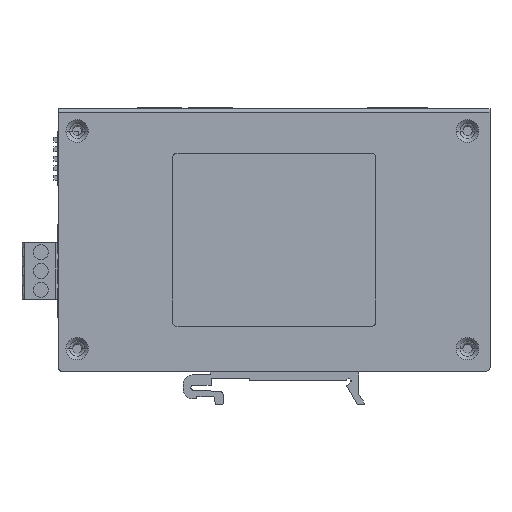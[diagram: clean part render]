
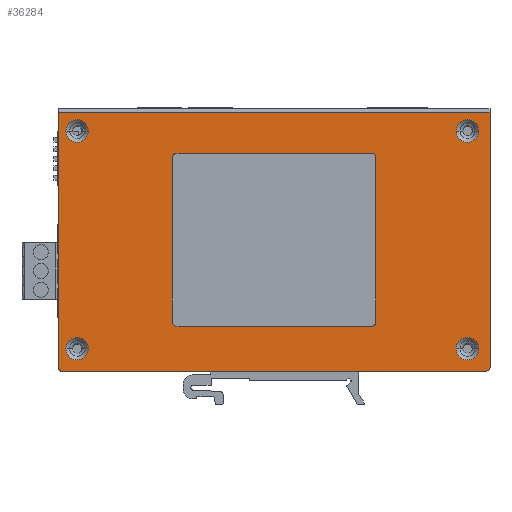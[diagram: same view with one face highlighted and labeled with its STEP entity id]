
A CAD part, left-side view. The second image highlights one B-rep face of the part: STEP entity #36284.
In plain terms, the highlighted planar face has unit normal (-1, 0, 0).
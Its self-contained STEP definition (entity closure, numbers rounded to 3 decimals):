
#34613=DIRECTION('',(0.,-1.,0.));
#34614=VECTOR('',#34613,113.);
#34615=CARTESIAN_POINT('',(-29.15,56.,-34.9));
#34616=LINE('',#34615,#34614);
#34617=CARTESIAN_POINT('',(-29.15,56.,-33.9));
#34618=DIRECTION('',(-1.,0.,0.));
#34619=DIRECTION('',(0.,1.,0.));
#34620=AXIS2_PLACEMENT_3D('',#34617,#34618,#34619);
#34622=DIRECTION('',(0.,0.,-1.));
#34623=VECTOR('',#34622,68.);
#34624=CARTESIAN_POINT('',(-29.15,57.,34.1));
#34625=LINE('',#34624,#34623);
#34626=DIRECTION('',(0.,0.,1.));
#34627=VECTOR('',#34626,68.);
#34628=CARTESIAN_POINT('',(-29.15,-58.,-33.9));
#34629=LINE('',#34628,#34627);
#34630=CARTESIAN_POINT('',(-29.15,-57.,-33.9));
#34631=DIRECTION('',(-1.,0.,0.));
#34632=DIRECTION('',(0.,0.,-1.));
#34633=AXIS2_PLACEMENT_3D('',#34630,#34631,#34632);
#34635=CARTESIAN_POINT('',(-29.15,52.,-28.9));
#34636=DIRECTION('',(1.,0.,0.));
#34637=DIRECTION('',(0.,1.,0.));
#34638=AXIS2_PLACEMENT_3D('',#34635,#34636,#34637);
#34640=CARTESIAN_POINT('',(-29.15,52.,-28.9));
#34641=DIRECTION('',(1.,0.,0.));
#34642=DIRECTION('',(0.,-1.,0.));
#34643=AXIS2_PLACEMENT_3D('',#34640,#34641,#34642);
#34645=CARTESIAN_POINT('',(-29.15,52.,29.1));
#34646=DIRECTION('',(1.,0.,0.));
#34647=DIRECTION('',(0.,1.,0.));
#34648=AXIS2_PLACEMENT_3D('',#34645,#34646,#34647);
#34650=CARTESIAN_POINT('',(-29.15,52.,29.1));
#34651=DIRECTION('',(1.,0.,0.));
#34652=DIRECTION('',(0.,-1.,0.));
#34653=AXIS2_PLACEMENT_3D('',#34650,#34651,#34652);
#34655=CARTESIAN_POINT('',(-29.15,-52.,29.1));
#34656=DIRECTION('',(1.,0.,0.));
#34657=DIRECTION('',(0.,1.,0.));
#34658=AXIS2_PLACEMENT_3D('',#34655,#34656,#34657);
#34660=CARTESIAN_POINT('',(-29.15,-52.,29.1));
#34661=DIRECTION('',(1.,0.,0.));
#34662=DIRECTION('',(0.,-1.,0.));
#34663=AXIS2_PLACEMENT_3D('',#34660,#34661,#34662);
#34665=CARTESIAN_POINT('',(-29.15,-52.,-28.9));
#34666=DIRECTION('',(1.,0.,0.));
#34667=DIRECTION('',(0.,1.,0.));
#34668=AXIS2_PLACEMENT_3D('',#34665,#34666,#34667);
#34670=CARTESIAN_POINT('',(-29.15,-52.,-28.9));
#34671=DIRECTION('',(1.,0.,0.));
#34672=DIRECTION('',(0.,-1.,0.));
#34673=AXIS2_PLACEMENT_3D('',#34670,#34671,#34672);
#34675=CARTESIAN_POINT('',(-29.15,-26.4,22.));
#34676=DIRECTION('',(1.,0.,0.));
#34677=DIRECTION('',(0.,0.,1.));
#34678=AXIS2_PLACEMENT_3D('',#34675,#34676,#34677);
#34680=DIRECTION('',(0.,-1.,0.));
#34681=VECTOR('',#34680,51.8);
#34682=CARTESIAN_POINT('',(-29.15,25.4,23.2));
#34683=LINE('',#34682,#34681);
#34684=CARTESIAN_POINT('',(-29.15,25.4,22.));
#34685=DIRECTION('',(1.,0.,0.));
#34686=DIRECTION('',(0.,1.,0.));
#34687=AXIS2_PLACEMENT_3D('',#34684,#34685,#34686);
#34689=DIRECTION('',(0.,0.,1.));
#34690=VECTOR('',#34689,43.8);
#34691=CARTESIAN_POINT('',(-29.15,26.6,-21.8));
#34692=LINE('',#34691,#34690);
#34693=CARTESIAN_POINT('',(-29.15,25.4,-21.8));
#34694=DIRECTION('',(1.,0.,0.));
#34695=DIRECTION('',(0.,0.,-1.));
#34696=AXIS2_PLACEMENT_3D('',#34693,#34694,#34695);
#34698=DIRECTION('',(0.,1.,0.));
#34699=VECTOR('',#34698,51.8);
#34700=CARTESIAN_POINT('',(-29.15,-26.4,-23.));
#34701=LINE('',#34700,#34699);
#34702=CARTESIAN_POINT('',(-29.15,-26.4,-21.8));
#34703=DIRECTION('',(1.,0.,0.));
#34704=DIRECTION('',(0.,-1.,0.));
#34705=AXIS2_PLACEMENT_3D('',#34702,#34703,#34704);
#34707=DIRECTION('',(0.,0.,-1.));
#34708=VECTOR('',#34707,43.8);
#34709=CARTESIAN_POINT('',(-29.15,-27.6,22.));
#34710=LINE('',#34709,#34708);
#34727=DIRECTION('',(0.,-1.,0.));
#34728=VECTOR('',#34727,115.);
#34729=CARTESIAN_POINT('',(-29.15,57.,34.1));
#34730=LINE('',#34729,#34728);
#35377=CARTESIAN_POINT('',(-29.15,-58.,34.1));
#35378=VERTEX_POINT('',#35377);
#35387=CARTESIAN_POINT('',(-29.15,56.,-34.9));
#35388=CARTESIAN_POINT('',(-29.15,-57.,-34.9));
#35389=VERTEX_POINT('',#35387);
#35390=VERTEX_POINT('',#35388);
#35391=CARTESIAN_POINT('',(-29.15,57.,34.1));
#35392=VERTEX_POINT('',#35391);
#35403=CARTESIAN_POINT('',(-29.15,55.,-28.9));
#35404=CARTESIAN_POINT('',(-29.15,49.,-28.9));
#35405=VERTEX_POINT('',#35403);
#35406=VERTEX_POINT('',#35404);
#35407=CARTESIAN_POINT('',(-29.15,-58.,-33.9));
#35408=VERTEX_POINT('',#35407);
#35409=CARTESIAN_POINT('',(-29.15,57.,-33.9));
#35410=VERTEX_POINT('',#35409);
#35427=CARTESIAN_POINT('',(-29.15,55.,29.1));
#35428=CARTESIAN_POINT('',(-29.15,49.,29.1));
#35429=VERTEX_POINT('',#35427);
#35430=VERTEX_POINT('',#35428);
#35449=CARTESIAN_POINT('',(-29.15,-49.,29.1));
#35450=CARTESIAN_POINT('',(-29.15,-55.,29.1));
#35451=VERTEX_POINT('',#35449);
#35452=VERTEX_POINT('',#35450);
#35465=CARTESIAN_POINT('',(-29.15,-49.,-28.9));
#35466=CARTESIAN_POINT('',(-29.15,-55.,-28.9));
#35467=VERTEX_POINT('',#35465);
#35468=VERTEX_POINT('',#35466);
#35487=CARTESIAN_POINT('',(-29.15,-26.4,23.2));
#35488=CARTESIAN_POINT('',(-29.15,-27.6,22.));
#35489=VERTEX_POINT('',#35487);
#35490=VERTEX_POINT('',#35488);
#35509=CARTESIAN_POINT('',(-29.15,-27.6,-21.8));
#35510=VERTEX_POINT('',#35509);
#35511=CARTESIAN_POINT('',(-29.15,25.4,23.2));
#35512=VERTEX_POINT('',#35511);
#35537=CARTESIAN_POINT('',(-29.15,-26.4,-23.));
#35538=VERTEX_POINT('',#35537);
#35539=CARTESIAN_POINT('',(-29.15,26.6,22.));
#35540=VERTEX_POINT('',#35539);
#35565=CARTESIAN_POINT('',(-29.15,25.4,-23.));
#35566=VERTEX_POINT('',#35565);
#35569=CARTESIAN_POINT('',(-29.15,26.6,-21.8));
#35570=VERTEX_POINT('',#35569);
#36225=CARTESIAN_POINT('',(-29.15,-58.,34.1));
#36226=DIRECTION('',(1.,0.,0.));
#36227=DIRECTION('',(0.,-1.,0.));
#36228=AXIS2_PLACEMENT_3D('',#36225,#36226,#36227);
#36229=PLANE('',#36228);
#36231=ORIENTED_EDGE('',*,*,#36230,.F.);
#36233=ORIENTED_EDGE('',*,*,#36232,.F.);
#36234=ORIENTED_EDGE('',*,*,#36216,.F.);
#36236=ORIENTED_EDGE('',*,*,#36235,.T.);
#36237=ORIENTED_EDGE('',*,*,#35792,.F.);
#36239=ORIENTED_EDGE('',*,*,#36238,.F.);
#36240=EDGE_LOOP('',(#36231,#36233,#36234,#36236,#36237,#36239));
#36241=FACE_OUTER_BOUND('',#36240,.F.);
#36243=ORIENTED_EDGE('',*,*,#36242,.F.);
#36245=ORIENTED_EDGE('',*,*,#36244,.F.);
#36246=EDGE_LOOP('',(#36243,#36245));
#36247=FACE_BOUND('',#36246,.F.);
#36249=ORIENTED_EDGE('',*,*,#36248,.F.);
#36251=ORIENTED_EDGE('',*,*,#36250,.F.);
#36252=EDGE_LOOP('',(#36249,#36251));
#36253=FACE_BOUND('',#36252,.F.);
#36255=ORIENTED_EDGE('',*,*,#36254,.F.);
#36257=ORIENTED_EDGE('',*,*,#36256,.F.);
#36258=EDGE_LOOP('',(#36255,#36257));
#36259=FACE_BOUND('',#36258,.F.);
#36261=ORIENTED_EDGE('',*,*,#36260,.F.);
#36263=ORIENTED_EDGE('',*,*,#36262,.F.);
#36264=EDGE_LOOP('',(#36261,#36263));
#36265=FACE_BOUND('',#36264,.F.);
#36267=ORIENTED_EDGE('',*,*,#36266,.F.);
#36269=ORIENTED_EDGE('',*,*,#36268,.F.);
#36271=ORIENTED_EDGE('',*,*,#36270,.F.);
#36273=ORIENTED_EDGE('',*,*,#36272,.F.);
#36275=ORIENTED_EDGE('',*,*,#36274,.F.);
#36277=ORIENTED_EDGE('',*,*,#36276,.F.);
#36279=ORIENTED_EDGE('',*,*,#36278,.F.);
#36281=ORIENTED_EDGE('',*,*,#36280,.F.);
#36282=EDGE_LOOP('',(#36267,#36269,#36271,#36273,#36275,#36277,#36279,#36281));
#36283=FACE_BOUND('',#36282,.F.);
#36284=ADVANCED_FACE('',(#36241,#36247,#36253,#36259,#36265,#36283),#36229,.F.);
#34621=CIRCLE('',#34620,1.);
#34634=CIRCLE('',#34633,1.);
#34639=CIRCLE('',#34638,3.);
#34644=CIRCLE('',#34643,3.);
#34649=CIRCLE('',#34648,3.);
#34654=CIRCLE('',#34653,3.);
#34659=CIRCLE('',#34658,3.);
#34664=CIRCLE('',#34663,3.);
#34669=CIRCLE('',#34668,3.);
#34674=CIRCLE('',#34673,3.);
#34679=CIRCLE('',#34678,1.2);
#34688=CIRCLE('',#34687,1.2);
#34697=CIRCLE('',#34696,1.2);
#34706=CIRCLE('',#34705,1.2);
#35792=EDGE_CURVE('',#35408,#35378,#34629,.T.);
#36216=EDGE_CURVE('',#35392,#35410,#34625,.T.);
#36230=EDGE_CURVE('',#35389,#35390,#34616,.T.);
#36232=EDGE_CURVE('',#35410,#35389,#34621,.T.);
#36235=EDGE_CURVE('',#35392,#35378,#34730,.T.);
#36238=EDGE_CURVE('',#35390,#35408,#34634,.T.);
#36242=EDGE_CURVE('',#35405,#35406,#34639,.T.);
#36244=EDGE_CURVE('',#35406,#35405,#34644,.T.);
#36248=EDGE_CURVE('',#35429,#35430,#34649,.T.);
#36250=EDGE_CURVE('',#35430,#35429,#34654,.T.);
#36254=EDGE_CURVE('',#35451,#35452,#34659,.T.);
#36256=EDGE_CURVE('',#35452,#35451,#34664,.T.);
#36260=EDGE_CURVE('',#35467,#35468,#34669,.T.);
#36262=EDGE_CURVE('',#35468,#35467,#34674,.T.);
#36266=EDGE_CURVE('',#35489,#35490,#34679,.T.);
#36268=EDGE_CURVE('',#35512,#35489,#34683,.T.);
#36270=EDGE_CURVE('',#35540,#35512,#34688,.T.);
#36272=EDGE_CURVE('',#35570,#35540,#34692,.T.);
#36274=EDGE_CURVE('',#35566,#35570,#34697,.T.);
#36276=EDGE_CURVE('',#35538,#35566,#34701,.T.);
#36278=EDGE_CURVE('',#35510,#35538,#34706,.T.);
#36280=EDGE_CURVE('',#35490,#35510,#34710,.T.);
